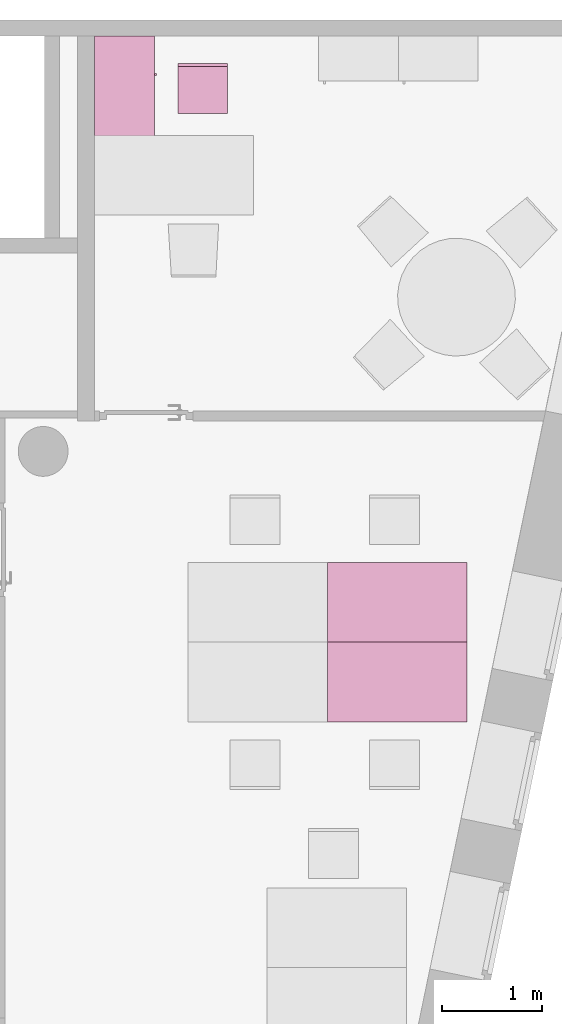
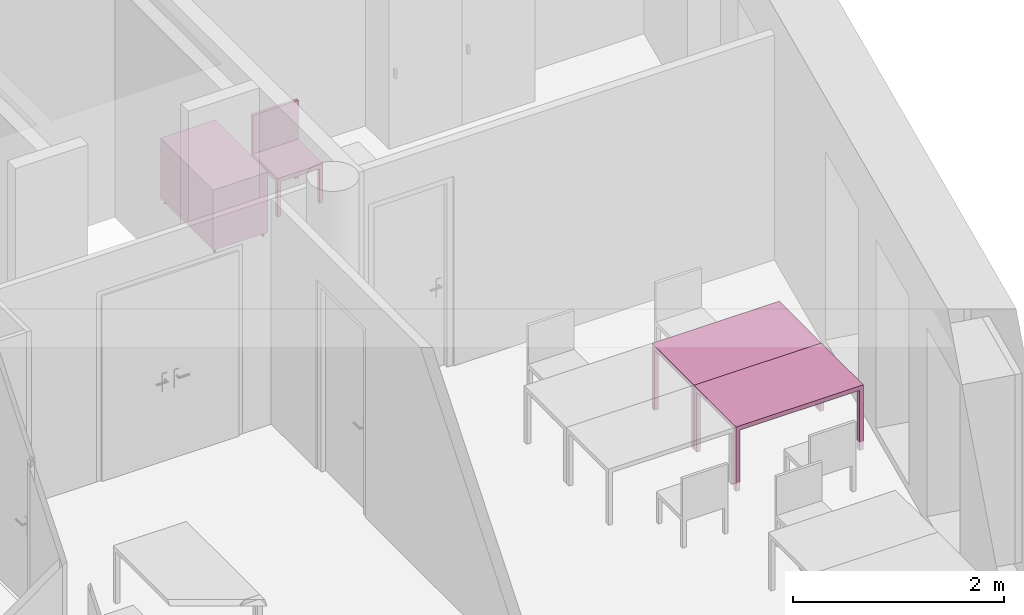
"""IFC4 building model written with IfcOpenShell, lengths in metres."""

import ifcopenshell
import ifcopenshell.guid

model = None  # the IFC model being written
_history = None  # IfcOwnerHistory: only IFC2X3 demands one
_inside = {}  # id of a spatial element -> (the spatial element, [elements in it])
_under = {}  # id of a project, library or spatial element -> (it, [spatial elements below it])
_declared = {}  # id of a project -> (the project, [libraries it declares])
_typed = {}  # id of a type object -> (the type object, [elements of that type])
_made_of = {}  # id of a material, layer set ... -> (it, [elements and type objects made of it])


def new_model(schema):
    """Start an empty IFC model of exactly this schema.

    Asked for "IFC4X3", IfcOpenShell would pick the latest addendum, in which some entities
    have other attributes; the version numbers below select the first issue.
    IFC2X3 requires an IfcOwnerHistory on every rooted entity: one is made here for all.
    """
    global model, _history
    if schema == "IFC4X3":
        model = ifcopenshell.file(schema_version=(4, 3, 0, 0))
    else:
        model = ifcopenshell.file(schema=schema)
    _inside.clear()
    _under.clear()
    _declared.clear()
    _typed.clear()
    _made_of.clear()
    _history = None
    if model.schema == "IFC2X3":
        org = make("IfcOrganization", Name="unknown")
        user = make(
            "IfcPersonAndOrganization",
            ThePerson=make("IfcPerson", FamilyName="unknown"),
            TheOrganization=org,
        )
        app = make(
            "IfcApplication",
            ApplicationDeveloper=org,
            Version="unknown",
            ApplicationFullName="unknown",
            ApplicationIdentifier="unknown",
        )
        _history = make(
            "IfcOwnerHistory",
            OwningUser=user,
            OwningApplication=app,
            ChangeAction="ADDED",
            CreationDate=0,
        )
    return model


def make(cls, **values):
    """One entity of the class cls with the attributes given. An attribute that is None is left unset."""
    return model.create_entity(
        cls, **{name: value for name, value in values.items() if value is not None}
    )


def entity(cls, *values):
    """Any entity or typed value of the class cls, its attributes in the order of the schema. None: left unset."""
    e = model.create_entity(cls)
    for i, value in enumerate(values):
        if value is not None:
            e[i] = value
    return e


def rooted(cls, **values):
    """An entity with a GlobalId (a new one), such as an element, a storey or a relation."""
    return make(cls, GlobalId=ifcopenshell.guid.new(), OwnerHistory=_history, **values)


def si_unit(unit_type, name, prefix=None):
    """IfcSIUnit, for example si_unit("LENGTHUNIT", "METRE", prefix="MILLI")."""
    return make("IfcSIUnit", UnitType=unit_type, Prefix=prefix, Name=name)


def converted_unit(unit_type, name, factor, base, dimensions=None, offset=None):
    """IfcConversionBasedUnit, such as the inch: factor (a typed value) times the base unit."""
    return make(
        "IfcConversionBasedUnit"
        if offset is None
        else "IfcConversionBasedUnitWithOffset",
        ConversionOffset=offset,
        Dimensions=None
        if dimensions is None
        else entity("IfcDimensionalExponents", *dimensions),
        UnitType=unit_type,
        Name=name,
        ConversionFactor=make(
            "IfcMeasureWithUnit", ValueComponent=factor, UnitComponent=base
        ),
    )


def derived_unit(unit_type, elements):
    """IfcDerivedUnit: a product of units, each with its exponent."""
    return make(
        "IfcDerivedUnit",
        Elements=[
            make("IfcDerivedUnitElement", Unit=unit, Exponent=power)
            for unit, power in elements
        ],
        UnitType=unit_type,
    )


def assignment(units):
    """IfcUnitAssignment: the units of a project."""
    return None if units is None else make("IfcUnitAssignment", Units=units)


def point(xyz):
    """IfcCartesianPoint."""
    return None if xyz is None else make("IfcCartesianPoint", Coordinates=xyz)


def direction(xyz):
    """IfcDirection."""
    return None if xyz is None else make("IfcDirection", DirectionRatios=xyz)


def frame(location, z_axis=None, x_axis=None):
    """IfcAxis2Placement3D, a coordinate frame: its origin and axes. An axis left out is left unset."""
    return make(
        "IfcAxis2Placement3D",
        Location=point(location),
        Axis=direction(z_axis),
        RefDirection=direction(x_axis),
    )


def origin():
    """The frame at (0, 0, 0) with its axes left unset."""
    return frame((0.0, 0.0, 0.0))


def place(relative_to, where):
    """IfcLocalPlacement: puts the frame where relative to a parent placement (None: the world)."""
    return make(
        "IfcLocalPlacement", PlacementRelTo=relative_to, RelativePlacement=where
    )


def context(
    kind, dimensions, precision=None, world=None, true_north=None, identifier=None
):
    """IfcGeometricRepresentationContext, for example the 3D "Model" context."""
    return make(
        "IfcGeometricRepresentationContext",
        ContextIdentifier=identifier,
        ContextType=kind,
        CoordinateSpaceDimension=dimensions,
        Precision=precision,
        WorldCoordinateSystem=world,
        TrueNorth=true_north,
    )


def subcontext(parent, identifier, kind, view, scale=None):
    """IfcGeometricRepresentationSubContext, for example "Body" below "Model"."""
    return make(
        "IfcGeometricRepresentationSubContext",
        ContextIdentifier=identifier,
        ContextType=kind,
        ParentContext=parent,
        TargetScale=scale,
        TargetView=view,
    )


def project(units=None, contexts=None):
    """IfcProject with its units and contexts."""
    return rooted(
        "IfcProject",
        Name="project",
        RepresentationContexts=contexts,
        UnitsInContext=assignment(units),
    )


def spatial(cls, under=None, at=None, **own):
    """A site, building, storey or space (cls), placed at a placement, below another one or the project."""
    s = rooted(cls, ObjectPlacement=at, **own)
    if under is not None:
        _under.setdefault(under.id(), (under, []))[1].append(s)
    return s


def faces_of(points, faces, orient=None, outer=None):
    """IfcFace entities. A face is a list of loops; a loop is a list of indices into points, from 0.

    orient and outer hold one flag for each loop. By default every Orientation is true, the
    first loop of a face is its IfcFaceOuterBound and the others are IfcFaceBound.
    """
    made = []
    for i, loops in enumerate(faces):
        bounds = []
        for j, loop in enumerate(loops):
            is_outer = j == 0 if outer is None else outer[i][j]
            bounds.append(
                make(
                    "IfcFaceOuterBound" if is_outer else "IfcFaceBound",
                    Bound=make("IfcPolyLoop", Polygon=[points[k] for k in loop]),
                    Orientation=True if orient is None else orient[i][j],
                )
            )
        made.append(make("IfcFace", Bounds=bounds))
    return made


def faceted_brep(points, faces, orient=None, outer=None, voids=None):
    """IfcFacetedBrep: a solid bounded by flat faces; with voids (closed shells), ...WithVoids."""
    shared = [point(p) for p in points]
    hull = make("IfcClosedShell", CfsFaces=faces_of(shared, faces, orient, outer))
    if voids is None:
        return make("IfcFacetedBrep", Outer=hull)
    return make(
        "IfcFacetedBrepWithVoids",
        Outer=hull,
        Voids=[
            make(cls, CfsFaces=faces_of(shared, fs, o, b)) for cls, fs, o, b in voids
        ],
    )


def shape(context_of_items, identifier, shape_type, items):
    """IfcShapeRepresentation: the items that make up one representation, for example the "Body"."""
    return make(
        "IfcShapeRepresentation",
        ContextOfItems=context_of_items,
        RepresentationIdentifier=identifier,
        RepresentationType=shape_type,
        Items=items,
    )


def made_of(thing, what):
    """Note that an element or type object is made of a material, layer set ...; save() writes the relation."""
    if what is not None:
        _made_of.setdefault(what.id(), (what, []))[1].append(thing)
    return thing


def element(
    cls,
    number,
    at=None,
    inside=None,
    cuts=None,
    type_object=None,
    material=None,
    context=None,
    identifier="Body",
    shape_type=None,
    held_by="IfcProductDefinitionShape",
    body=None,
    shapes=None,
    **own,
):
    """One element of the class cls, such as IfcWall. Its Tag is "e" and its number.

    at: its placement. inside: the storey or other place that contains it. cuts: it is an
    opening in that element (IfcRelVoidsElement). A single representation is given by context,
    identifier, shape_type and body (its items); several are given by shapes. held_by: the class
    of the entity that holds the representations. save() writes the other relations.
    """
    e = rooted(cls, Tag="e%d" % number, ObjectPlacement=at, **own)
    if body is not None:
        shapes = [shape(context, identifier, shape_type, body)]
    if shapes is not None:
        e.Representation = make(held_by, Representations=shapes)
    if inside is not None:
        _inside.setdefault(inside.id(), (inside, []))[1].append(e)
    if cuts is not None:
        rooted(
            "IfcRelVoidsElement", RelatingBuildingElement=cuts, RelatedOpeningElement=e
        )
    if type_object is not None:
        _typed.setdefault(type_object.id(), (type_object, []))[1].append(e)
    return made_of(e, material)


def aggregate(whole, parts):
    """IfcRelAggregates: a whole, such as a stair, and the parts it consists of."""
    return rooted("IfcRelAggregates", RelatingObject=whole, RelatedObjects=parts)


def save(model, path):
    """Write the relations noted so far, then the file.

    IfcRelAggregates (storeys below a building ...), IfcRelContainedInSpatialStructure (elements
    in a storey), IfcRelDefinesByType, IfcRelAssociatesMaterial and IfcRelDeclares: one each for
    every whole, place, type object, material and project.
    """
    for whole, parts in _under.values():
        aggregate(whole, parts)
    for where, things in _inside.values():
        rooted(
            "IfcRelContainedInSpatialStructure",
            RelatedElements=things,
            RelatingStructure=where,
        )
    for kind, things in _typed.values():
        rooted("IfcRelDefinesByType", RelatedObjects=things, RelatingType=kind)
    for what, things in _made_of.values():
        rooted("IfcRelAssociatesMaterial", RelatedObjects=things, RelatingMaterial=what)
    for by, libraries in _declared.values():
        rooted("IfcRelDeclares", RelatingContext=by, RelatedDefinitions=libraries)
    model.write(path)


model = new_model("IFC4")

# Units and contexts
model_context = context("Model", 3, precision=1e-05, world=origin())
body_context = subcontext(model_context, "Body", "Model", "MODEL_VIEW")
ifc_project = project(units=[si_unit("LENGTHUNIT", "METRE"), si_unit("AREAUNIT", "SQUARE_METRE"), si_unit("VOLUMEUNIT", "CUBIC_METRE"), si_unit("MASSUNIT", "GRAM", prefix="KILO"), converted_unit("PLANEANGLEUNIT", "DEGREE", entity("IfcPlaneAngleMeasure", 0.0174532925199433), si_unit("PLANEANGLEUNIT", "RADIAN"), dimensions=[0, 0, 0, 0, 0, 0, 0]), derived_unit("THERMALTRANSMITTANCEUNIT", [(si_unit("POWERUNIT", "WATT"), 1), (si_unit("THERMODYNAMICTEMPERATUREUNIT", "KELVIN"), -1), (si_unit("LENGTHUNIT", "METRE"), -2)]), derived_unit("VOLUMETRICFLOWRATEUNIT", [(si_unit("LENGTHUNIT", "METRE"), 3), (converted_unit("TIMEUNIT", "hour", entity("IfcTimeMeasure", 3600.0), si_unit("TIMEUNIT", "SECOND"), dimensions=[0, 0, 1, 0, 0, 0, 0]), -1), (si_unit("LENGTHUNIT", "METRE"), -1)])], contexts=[model_context])

# Building, storeys
building_placement = place(None, origin())
building = spatial("IfcBuilding", under=ifc_project, at=building_placement, Name="HABITATGE PLURIFAMILIAR", CompositionType="ELEMENT")
storey_1_placement = place(building_placement, frame((0.0, 0.0, 9.26)))
storey_1 = spatial("IfcBuildingStorey", under=building, at=storey_1_placement, Name="PLANTA SEGONA", CompositionType="ELEMENT", Elevation=9.26)
storey_2_placement = place(storey_1_placement, frame((0.0, 0.0, 6.25)))
storey_2 = spatial("IfcBuildingStorey", under=storey_1, at=storey_2_placement, Name="NOU", CompositionType="PARTIAL")

# Furniture
furniture_1_placement = place(storey_2_placement, frame((421.506984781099, 27.065193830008, -6.3499999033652)))
element("IfcFurniture", 1, at=furniture_1_placement, inside=storey_2, Name="Taula 100X60_P2", context=body_context, shape_type="Brep", body=[
    faceted_brep([(0.0, 0.0, 0.05), (0.0, 0.0, 0.07), (0.6, 0.0, 0.07), (0.6, 0.0, 0.05), (0.6, 1.00000000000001, 0.07), (0.6, 1.00000000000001, 0.05), (0.0, 1.00000000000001, 0.07), (0.0, 1.00000000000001, 0.05)], [[[0, 1, 2, 3]], [[3, 2, 4, 5]], [[5, 4, 6, 7]], [[7, 6, 1, 0]], [[0, 3, 5, 7]], [[1, 6, 4, 2]]], orient=[[False], [False], [False], [False], [False], [False]]),
    faceted_brep([(0.58, 0.0, 0.35), (0.58, 1.00000000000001, 0.35), (0.0, 1.0, 0.35), (0.0, 0.0, 0.35), (0.0, 0.0, 0.37), (0.0, 1.0, 0.37), (0.58, 1.00000000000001, 0.37), (0.58, 0.0, 0.37)], [[[0, 1, 2, 3]], [[4, 5, 6, 7]], [[3, 4, 7, 0]], [[2, 5, 4, 3]], [[1, 6, 5, 2]], [[0, 7, 6, 1]]], orient=[[False], [False], [False], [False], [False], [False]]),
    faceted_brep([(0.58, 0.510000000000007, 0.75), (0.6, 0.510000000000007, 0.75), (0.6, 0.510000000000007, 0.05), (0.58, 0.510000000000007, 0.05), (0.6, 1.00000000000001, 0.05), (0.58, 1.00000000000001, 0.05), (0.6, 1.00000000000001, 0.75), (0.58, 1.00000000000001, 0.75)], [[[0, 1, 2, 3]], [[3, 2, 4, 5]], [[5, 4, 6, 7]], [[7, 6, 1, 0]], [[0, 3, 5, 7]], [[1, 6, 4, 2]]], orient=[[False], [False], [False], [False], [False], [False]]),
    faceted_brep([(0.0, 0.0200000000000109, 0.75), (0.0, 0.0, 0.75), (0.0, 0.0, 0.0499999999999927), (0.0, 0.0200000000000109, 0.0499999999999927), (0.6, 0.0, 0.05), (0.6, 0.0200000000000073, 0.05), (0.6, 0.0, 0.75), (0.6, 0.0200000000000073, 0.75)], [[[0, 1, 2, 3]], [[3, 2, 4, 5]], [[5, 4, 6, 7]], [[7, 6, 1, 0]], [[0, 3, 5, 7]], [[1, 6, 4, 2]]], orient=[[False], [False], [False], [False], [False], [False]]),
    faceted_brep([(0.0, 0.530000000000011, 0.75), (0.0, 0.510000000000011, 0.75), (0.0, 0.510000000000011, 0.0499999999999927), (0.0, 0.530000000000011, 0.0499999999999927), (0.6, 0.510000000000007, 0.05), (0.6, 0.530000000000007, 0.05), (0.6, 0.510000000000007, 0.75), (0.6, 0.530000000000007, 0.75)], [[[0, 1, 2, 3]], [[3, 2, 4, 5]], [[5, 4, 6, 7]], [[7, 6, 1, 0]], [[0, 3, 5, 7]], [[1, 6, 4, 2]]], orient=[[False], [False], [False], [False], [False], [False]]),
    faceted_brep([(0.0, 0.530000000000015, 0.750000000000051), (0.0, 0.510000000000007, 0.750000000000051), (0.0, 0.510000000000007, 0.0499999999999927), (0.0, 0.530000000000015, 0.0499999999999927), (0.579999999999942, 0.510000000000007, 0.0499999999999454), (0.579999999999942, 0.530000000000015, 0.0499999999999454), (0.58, 0.510000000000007, 0.750000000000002), (0.58, 0.530000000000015, 0.750000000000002)], [[[0, 1, 2, 3]], [[3, 2, 4, 5]], [[5, 4, 6, 7]], [[7, 6, 1, 0]], [[0, 3, 5, 7]], [[1, 6, 4, 2]]], orient=[[False], [False], [False], [False], [False], [False]]),
    faceted_brep([(0.0, 1.00000000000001, 0.75), (0.0, 0.980000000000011, 0.75), (0.0, 0.980000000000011, 0.0499999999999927), (0.0, 1.00000000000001, 0.0499999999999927), (0.6, 0.980000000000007, 0.05), (0.6, 1.00000000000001, 0.05), (0.6, 0.980000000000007, 0.75), (0.6, 1.00000000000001, 0.75)], [[[0, 1, 2, 3]], [[3, 2, 4, 5]], [[5, 4, 6, 7]], [[7, 6, 1, 0]], [[0, 3, 5, 7]], [[1, 6, 4, 2]]], orient=[[False], [False], [False], [False], [False], [False]]),
    faceted_brep([(0.0, 0.0, 0.73), (0.0, 0.0, 0.75), (0.6, 0.0, 0.75), (0.6, 0.0, 0.73), (0.6, 1.00000000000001, 0.75), (0.6, 1.00000000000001, 0.73), (0.0, 1.00000000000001, 0.75), (0.0, 1.00000000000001, 0.73)], [[[0, 1, 2, 3]], [[3, 2, 4, 5]], [[5, 4, 6, 7]], [[7, 6, 1, 0]], [[0, 3, 5, 7]], [[1, 6, 4, 2]]], orient=[[False], [False], [False], [False], [False], [False]]),
    faceted_brep([(0.0, 0.0200000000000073, 0.75), (0.02, 0.0200000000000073, 0.75), (0.02, 0.0200000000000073, 0.05), (0.0, 0.0200000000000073, 0.05), (0.02, 1.00000000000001, 0.05), (0.0, 1.00000000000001, 0.05), (0.02, 1.00000000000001, 0.75), (0.0, 1.00000000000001, 0.75)], [[[0, 1, 2, 3]], [[3, 2, 4, 5]], [[5, 4, 6, 7]], [[7, 6, 1, 0]], [[0, 3, 5, 7]], [[1, 6, 4, 2]]], orient=[[False], [False], [False], [False], [False], [False]]),
    faceted_brep([(0.6, 0.625579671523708, 0.35), (0.6, 0.605579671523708, 0.35), (0.62, 0.605579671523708, 0.35), (0.62, 0.625579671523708, 0.35), (0.6, 0.605579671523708, 0.45), (0.6, 0.625579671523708, 0.45), (0.62, 0.625579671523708, 0.45), (0.62, 0.605579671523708, 0.45)], [[[0, 1, 2, 3]], [[4, 5, 6, 7]], [[1, 0, 5, 4]], [[2, 1, 4, 7]], [[3, 2, 7, 6]], [[0, 3, 6, 5]]], orient=[[False], [False], [False], [False], [False], [False]]),
    faceted_brep([(0.0361788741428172, 0.049936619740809, 0.0), (0.0335849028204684, 0.0497096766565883, 0.0), (0.0310697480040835, 0.0490357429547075, 0.0), (0.0287098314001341, 0.0479352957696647, 0.0), (0.02657685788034, 0.0464417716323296, 0.0), (0.024735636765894, 0.0446005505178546, 0.0), (0.0232421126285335, 0.0424675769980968, 0.0), (0.022141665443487, 0.0401076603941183, 0.0), (0.0214677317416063, 0.0375925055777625, 0.0), (0.0212407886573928, 0.0349985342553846, 0.0), (0.0214677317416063, 0.0324045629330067, 0.0), (0.022141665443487, 0.0298894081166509, 0.0), (0.0232421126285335, 0.0275294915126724, 0.0), (0.024735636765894, 0.0253965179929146, 0.0), (0.02657685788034, 0.0235552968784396, 0.0), (0.0287098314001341, 0.0220617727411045, 0.0), (0.0310697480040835, 0.0209613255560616, 0.0), (0.0335849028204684, 0.0202873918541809, 0.0), (0.0361788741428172, 0.0200604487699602, 0.0), (0.038772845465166, 0.0202873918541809, 0.0), (0.0412880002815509, 0.0209613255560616, 0.0), (0.0436479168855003, 0.0220617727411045, 0.0), (0.0457808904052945, 0.0235552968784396, 0.0), (0.0476221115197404, 0.0253965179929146, 0.0), (0.0491156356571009, 0.0275294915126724, 0.0), (0.0502160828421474, 0.0298894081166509, 0.0), (0.0508900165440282, 0.0324045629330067, 0.0), (0.0511169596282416, 0.0349985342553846, 0.0), (0.0508900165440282, 0.0375925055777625, 0.0), (0.0502160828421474, 0.0401076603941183, 0.0), (0.0491156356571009, 0.0424675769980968, 0.0), (0.0476221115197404, 0.0446005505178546, 0.0), (0.0457808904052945, 0.0464417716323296, 0.0), (0.0436479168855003, 0.0479352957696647, 0.0), (0.0412880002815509, 0.0490357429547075, 0.0), (0.038772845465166, 0.0497096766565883, 0.0), (0.0361788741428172, 0.049936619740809, 0.05), (0.038772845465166, 0.0497096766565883, 0.05), (0.0412880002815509, 0.0490357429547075, 0.05), (0.0436479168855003, 0.0479352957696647, 0.05), (0.0457808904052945, 0.0464417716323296, 0.05), (0.0476221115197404, 0.0446005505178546, 0.05), (0.0491156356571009, 0.0424675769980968, 0.05), (0.0502160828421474, 0.0401076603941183, 0.05), (0.0508900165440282, 0.0375925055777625, 0.05), (0.0511169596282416, 0.0349985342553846, 0.05), (0.0508900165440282, 0.0324045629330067, 0.05), (0.0502160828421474, 0.0298894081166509, 0.05), (0.0491156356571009, 0.0275294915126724, 0.05), (0.0476221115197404, 0.0253965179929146, 0.05), (0.0457808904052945, 0.0235552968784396, 0.05), (0.0436479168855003, 0.0220617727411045, 0.05), (0.0412880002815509, 0.0209613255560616, 0.05), (0.038772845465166, 0.0202873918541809, 0.05), (0.0361788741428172, 0.0200604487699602, 0.05), (0.0335849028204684, 0.0202873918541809, 0.05), (0.0310697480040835, 0.0209613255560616, 0.05), (0.0287098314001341, 0.0220617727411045, 0.05), (0.02657685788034, 0.0235552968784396, 0.05), (0.024735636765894, 0.0253965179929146, 0.05), (0.0232421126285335, 0.0275294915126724, 0.05), (0.022141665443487, 0.0298894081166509, 0.05), (0.0214677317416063, 0.0324045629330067, 0.05), (0.0212407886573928, 0.0349985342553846, 0.05), (0.0214677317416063, 0.0375925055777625, 0.05), (0.022141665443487, 0.0401076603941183, 0.05), (0.0232421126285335, 0.0424675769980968, 0.05), (0.024735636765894, 0.0446005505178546, 0.05), (0.02657685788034, 0.0464417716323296, 0.05), (0.0287098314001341, 0.0479352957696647, 0.05), (0.0310697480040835, 0.0490357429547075, 0.05), (0.0335849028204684, 0.0497096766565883, 0.05)], [[[0, 1, 2, 3, 4, 5, 6, 7, 8, 9, 10, 11, 12, 13, 14, 15, 16, 17, 18, 19, 20, 21, 22, 23, 24, 25, 26, 27, 28, 29, 30, 31, 32, 33, 34, 35]], [[36, 37, 38, 39, 40, 41, 42, 43, 44, 45, 46, 47, 48, 49, 50, 51, 52, 53, 54, 55, 56, 57, 58, 59, 60, 61, 62, 63, 64, 65, 66, 67, 68, 69, 70, 71]], [[35, 37, 36, 0]], [[34, 38, 37, 35]], [[33, 39, 38, 34]], [[32, 40, 39, 33]], [[31, 41, 40, 32]], [[30, 42, 41, 31]], [[29, 43, 42, 30]], [[28, 44, 43, 29]], [[27, 45, 44, 28]], [[26, 46, 45, 27]], [[25, 47, 46, 26]], [[24, 48, 47, 25]], [[23, 49, 48, 24]], [[22, 50, 49, 23]], [[21, 51, 50, 22]], [[20, 52, 51, 21]], [[19, 53, 52, 20]], [[18, 54, 53, 19]], [[17, 55, 54, 18]], [[16, 56, 55, 17]], [[15, 57, 56, 16]], [[14, 58, 57, 15]], [[13, 59, 58, 14]], [[12, 60, 59, 13]], [[11, 61, 60, 12]], [[10, 62, 61, 11]], [[9, 63, 62, 10]], [[8, 64, 63, 9]], [[7, 65, 64, 8]], [[6, 66, 65, 7]], [[5, 67, 66, 6]], [[4, 68, 67, 5]], [[3, 69, 68, 4]], [[2, 70, 69, 3]], [[1, 71, 70, 2]], [[0, 36, 71, 1]]], orient=[[False], [False], [False], [False], [False], [False], [False], [False], [False], [False], [False], [False], [False], [False], [False], [False], [False], [False], [False], [False], [False], [False], [False], [False], [False], [False], [False], [False], [False], [False], [False], [False], [False], [False], [False], [False], [False], [False]]),
    faceted_brep([(0.566178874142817, 0.0499366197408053, 0.0), (0.563584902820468, 0.0497096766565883, 0.0), (0.561069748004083, 0.0490357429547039, 0.0), (0.558709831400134, 0.047935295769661, 0.0), (0.55657685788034, 0.0464417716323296, 0.0), (0.554735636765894, 0.0446005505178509, 0.0), (0.553242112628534, 0.0424675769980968, 0.0), (0.552141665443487, 0.0401076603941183, 0.0), (0.551467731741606, 0.0375925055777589, 0.0), (0.551240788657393, 0.0349985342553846, 0.0), (0.551467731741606, 0.0324045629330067, 0.0), (0.552141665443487, 0.0298894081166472, 0.0), (0.553242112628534, 0.0275294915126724, 0.0), (0.554735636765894, 0.0253965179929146, 0.0), (0.55657685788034, 0.0235552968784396, 0.0), (0.558709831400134, 0.0220617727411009, 0.0), (0.561069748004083, 0.0209613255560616, 0.0), (0.563584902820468, 0.0202873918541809, 0.0), (0.566178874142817, 0.0200604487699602, 0.0), (0.568772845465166, 0.0202873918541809, 0.0), (0.571288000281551, 0.0209613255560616, 0.0), (0.5736479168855, 0.0220617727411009, 0.0), (0.575780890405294, 0.0235552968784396, 0.0), (0.57762211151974, 0.0253965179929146, 0.0), (0.579115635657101, 0.0275294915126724, 0.0), (0.580216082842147, 0.0298894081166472, 0.0), (0.580890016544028, 0.0324045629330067, 0.0), (0.581116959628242, 0.0349985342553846, 0.0), (0.580890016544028, 0.0375925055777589, 0.0), (0.580216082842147, 0.0401076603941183, 0.0), (0.579115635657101, 0.0424675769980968, 0.0), (0.57762211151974, 0.0446005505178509, 0.0), (0.575780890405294, 0.0464417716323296, 0.0), (0.5736479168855, 0.047935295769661, 0.0), (0.571288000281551, 0.0490357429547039, 0.0), (0.568772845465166, 0.0497096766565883, 0.0), (0.566178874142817, 0.0499366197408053, 0.05), (0.568772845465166, 0.0497096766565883, 0.05), (0.571288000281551, 0.0490357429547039, 0.05), (0.5736479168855, 0.047935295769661, 0.05), (0.575780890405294, 0.0464417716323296, 0.05), (0.57762211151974, 0.0446005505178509, 0.05), (0.579115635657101, 0.0424675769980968, 0.05), (0.580216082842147, 0.0401076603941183, 0.05), (0.580890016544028, 0.0375925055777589, 0.05), (0.581116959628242, 0.0349985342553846, 0.05), (0.580890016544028, 0.0324045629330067, 0.05), (0.580216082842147, 0.0298894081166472, 0.05), (0.579115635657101, 0.0275294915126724, 0.05), (0.57762211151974, 0.0253965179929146, 0.05), (0.575780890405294, 0.0235552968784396, 0.05), (0.5736479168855, 0.0220617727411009, 0.05), (0.571288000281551, 0.0209613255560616, 0.05), (0.568772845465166, 0.0202873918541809, 0.05), (0.566178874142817, 0.0200604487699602, 0.05), (0.563584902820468, 0.0202873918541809, 0.05), (0.561069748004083, 0.0209613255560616, 0.05), (0.558709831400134, 0.0220617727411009, 0.05), (0.55657685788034, 0.0235552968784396, 0.05), (0.554735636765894, 0.0253965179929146, 0.05), (0.553242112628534, 0.0275294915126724, 0.05), (0.552141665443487, 0.0298894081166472, 0.05), (0.551467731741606, 0.0324045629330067, 0.05), (0.551240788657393, 0.0349985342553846, 0.05), (0.551467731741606, 0.0375925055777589, 0.05), (0.552141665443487, 0.0401076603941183, 0.05), (0.553242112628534, 0.0424675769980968, 0.05), (0.554735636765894, 0.0446005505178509, 0.05), (0.55657685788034, 0.0464417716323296, 0.05), (0.558709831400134, 0.047935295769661, 0.05), (0.561069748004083, 0.0490357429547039, 0.05), (0.563584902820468, 0.0497096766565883, 0.05)], [[[0, 1, 2, 3, 4, 5, 6, 7, 8, 9, 10, 11, 12, 13, 14, 15, 16, 17, 18, 19, 20, 21, 22, 23, 24, 25, 26, 27, 28, 29, 30, 31, 32, 33, 34, 35]], [[36, 37, 38, 39, 40, 41, 42, 43, 44, 45, 46, 47, 48, 49, 50, 51, 52, 53, 54, 55, 56, 57, 58, 59, 60, 61, 62, 63, 64, 65, 66, 67, 68, 69, 70, 71]], [[35, 37, 36, 0]], [[34, 38, 37, 35]], [[33, 39, 38, 34]], [[32, 40, 39, 33]], [[31, 41, 40, 32]], [[30, 42, 41, 31]], [[29, 43, 42, 30]], [[28, 44, 43, 29]], [[27, 45, 44, 28]], [[26, 46, 45, 27]], [[25, 47, 46, 26]], [[24, 48, 47, 25]], [[23, 49, 48, 24]], [[22, 50, 49, 23]], [[21, 51, 50, 22]], [[20, 52, 51, 21]], [[19, 53, 52, 20]], [[18, 54, 53, 19]], [[17, 55, 54, 18]], [[16, 56, 55, 17]], [[15, 57, 56, 16]], [[14, 58, 57, 15]], [[13, 59, 58, 14]], [[12, 60, 59, 13]], [[11, 61, 60, 12]], [[10, 62, 61, 11]], [[9, 63, 62, 10]], [[8, 64, 63, 9]], [[7, 65, 64, 8]], [[6, 66, 65, 7]], [[5, 67, 66, 6]], [[4, 68, 67, 5]], [[3, 69, 68, 4]], [[2, 70, 69, 3]], [[1, 71, 70, 2]], [[0, 36, 71, 1]]], orient=[[False], [False], [False], [False], [False], [False], [False], [False], [False], [False], [False], [False], [False], [False], [False], [False], [False], [False], [False], [False], [False], [False], [False], [False], [False], [False], [False], [False], [False], [False], [False], [False], [False], [False], [False], [False], [False], [False]]),
    faceted_brep([(0.564999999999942, 0.979982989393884, 0.0), (0.562406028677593, 0.979756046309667, 0.0), (0.559890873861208, 0.979082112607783, 0.0), (0.557530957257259, 0.97798166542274, 0.0), (0.555397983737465, 0.976488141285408, 0.0), (0.553556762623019, 0.97464692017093, 0.0), (0.552063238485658, 0.972513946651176, 0.0), (0.550962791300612, 0.970154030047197, 0.0), (0.550288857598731, 0.967638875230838, 0.0), (0.550061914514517, 0.965044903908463, 0.0), (0.550288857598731, 0.962450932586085, 0.0), (0.550962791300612, 0.959935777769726, 0.0), (0.552063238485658, 0.957575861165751, 0.0), (0.553556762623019, 0.955442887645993, 0.0), (0.555397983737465, 0.953601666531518, 0.0), (0.557530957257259, 0.95210814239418, 0.0), (0.559890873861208, 0.95100769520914, 0.0), (0.562406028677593, 0.95033376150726, 0.0), (0.564999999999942, 0.950106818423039, 0.0), (0.567593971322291, 0.95033376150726, 0.0), (0.570109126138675, 0.95100769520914, 0.0), (0.572469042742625, 0.95210814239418, 0.0), (0.574602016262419, 0.953601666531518, 0.0), (0.576443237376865, 0.955442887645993, 0.0), (0.577936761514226, 0.957575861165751, 0.0), (0.579037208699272, 0.959935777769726, 0.0), (0.579711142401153, 0.962450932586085, 0.0), (0.579938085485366, 0.965044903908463, 0.0), (0.579711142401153, 0.967638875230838, 0.0), (0.579037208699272, 0.970154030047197, 0.0), (0.577936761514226, 0.972513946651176, 0.0), (0.576443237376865, 0.97464692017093, 0.0), (0.574602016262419, 0.976488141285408, 0.0), (0.572469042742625, 0.97798166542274, 0.0), (0.570109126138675, 0.979082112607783, 0.0), (0.567593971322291, 0.979756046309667, 0.0), (0.564999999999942, 0.979982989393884, 0.05), (0.567593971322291, 0.979756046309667, 0.05), (0.570109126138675, 0.979082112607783, 0.05), (0.572469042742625, 0.97798166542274, 0.05), (0.574602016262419, 0.976488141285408, 0.05), (0.576443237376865, 0.97464692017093, 0.05), (0.577936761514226, 0.972513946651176, 0.05), (0.579037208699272, 0.970154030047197, 0.05), (0.579711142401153, 0.967638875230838, 0.05), (0.579938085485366, 0.965044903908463, 0.05), (0.579711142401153, 0.962450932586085, 0.05), (0.579037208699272, 0.959935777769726, 0.05), (0.577936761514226, 0.957575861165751, 0.05), (0.576443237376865, 0.955442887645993, 0.05), (0.574602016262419, 0.953601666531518, 0.05), (0.572469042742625, 0.95210814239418, 0.05), (0.570109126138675, 0.95100769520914, 0.05), (0.567593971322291, 0.95033376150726, 0.05), (0.564999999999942, 0.950106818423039, 0.05), (0.562406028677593, 0.95033376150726, 0.05), (0.559890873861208, 0.95100769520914, 0.05), (0.557530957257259, 0.95210814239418, 0.05), (0.555397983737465, 0.953601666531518, 0.05), (0.553556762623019, 0.955442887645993, 0.05), (0.552063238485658, 0.957575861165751, 0.05), (0.550962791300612, 0.959935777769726, 0.05), (0.550288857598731, 0.962450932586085, 0.05), (0.550061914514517, 0.965044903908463, 0.05), (0.550288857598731, 0.967638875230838, 0.05), (0.550962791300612, 0.970154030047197, 0.05), (0.552063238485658, 0.972513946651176, 0.05), (0.553556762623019, 0.97464692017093, 0.05), (0.555397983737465, 0.976488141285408, 0.05), (0.557530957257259, 0.97798166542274, 0.05), (0.559890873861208, 0.979082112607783, 0.05), (0.562406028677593, 0.979756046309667, 0.05)], [[[0, 1, 2, 3, 4, 5, 6, 7, 8, 9, 10, 11, 12, 13, 14, 15, 16, 17, 18, 19, 20, 21, 22, 23, 24, 25, 26, 27, 28, 29, 30, 31, 32, 33, 34, 35]], [[36, 37, 38, 39, 40, 41, 42, 43, 44, 45, 46, 47, 48, 49, 50, 51, 52, 53, 54, 55, 56, 57, 58, 59, 60, 61, 62, 63, 64, 65, 66, 67, 68, 69, 70, 71]], [[35, 37, 36, 0]], [[34, 38, 37, 35]], [[33, 39, 38, 34]], [[32, 40, 39, 33]], [[31, 41, 40, 32]], [[30, 42, 41, 31]], [[29, 43, 42, 30]], [[28, 44, 43, 29]], [[27, 45, 44, 28]], [[26, 46, 45, 27]], [[25, 47, 46, 26]], [[24, 48, 47, 25]], [[23, 49, 48, 24]], [[22, 50, 49, 23]], [[21, 51, 50, 22]], [[20, 52, 51, 21]], [[19, 53, 52, 20]], [[18, 54, 53, 19]], [[17, 55, 54, 18]], [[16, 56, 55, 17]], [[15, 57, 56, 16]], [[14, 58, 57, 15]], [[13, 59, 58, 14]], [[12, 60, 59, 13]], [[11, 61, 60, 12]], [[10, 62, 61, 11]], [[9, 63, 62, 10]], [[8, 64, 63, 9]], [[7, 65, 64, 8]], [[6, 66, 65, 7]], [[5, 67, 66, 6]], [[4, 68, 67, 5]], [[3, 69, 68, 4]], [[2, 70, 69, 3]], [[1, 71, 70, 2]], [[0, 36, 71, 1]]], orient=[[False], [False], [False], [False], [False], [False], [False], [False], [False], [False], [False], [False], [False], [False], [False], [False], [False], [False], [False], [False], [False], [False], [False], [False], [False], [False], [False], [False], [False], [False], [False], [False], [False], [False], [False], [False], [False], [False]]),
    faceted_brep([(0.0349662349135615, 0.979647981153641, 0.0), (0.0323722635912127, 0.97942103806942, 0.0), (0.0298571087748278, 0.97874710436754, 0.0), (0.0274971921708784, 0.977646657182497, 0.0), (0.0253642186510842, 0.976153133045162, 0.0), (0.0235229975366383, 0.974311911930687, 0.0), (0.0220294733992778, 0.972178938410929, 0.0), (0.0209290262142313, 0.96981902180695, 0.0), (0.0202550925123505, 0.967303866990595, 0.0), (0.0200281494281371, 0.964709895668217, 0.0), (0.0202550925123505, 0.962115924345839, 0.0), (0.0209290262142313, 0.959600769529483, 0.0), (0.0220294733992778, 0.957240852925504, 0.0), (0.0235229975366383, 0.955107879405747, 0.0), (0.0253642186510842, 0.953266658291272, 0.0), (0.0274971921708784, 0.951773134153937, 0.0), (0.0298571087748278, 0.950672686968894, 0.0), (0.0323722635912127, 0.949998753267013, 0.0), (0.0349662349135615, 0.949771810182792, 0.0), (0.0375602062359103, 0.949998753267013, 0.0), (0.0400753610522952, 0.950672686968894, 0.0), (0.0424352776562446, 0.951773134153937, 0.0), (0.0445682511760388, 0.953266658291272, 0.0), (0.0464094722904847, 0.955107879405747, 0.0), (0.0479029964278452, 0.957240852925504, 0.0), (0.0490034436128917, 0.959600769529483, 0.0), (0.0496773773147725, 0.962115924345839, 0.0), (0.0499043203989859, 0.964709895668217, 0.0), (0.0496773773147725, 0.967303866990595, 0.0), (0.0490034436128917, 0.96981902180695, 0.0), (0.0479029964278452, 0.972178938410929, 0.0), (0.0464094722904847, 0.974311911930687, 0.0), (0.0445682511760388, 0.976153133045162, 0.0), (0.0424352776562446, 0.977646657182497, 0.0), (0.0400753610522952, 0.97874710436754, 0.0), (0.0375602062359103, 0.97942103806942, 0.0), (0.0349662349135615, 0.979647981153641, 0.05), (0.0375602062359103, 0.97942103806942, 0.05), (0.0400753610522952, 0.97874710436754, 0.05), (0.0424352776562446, 0.977646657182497, 0.05), (0.0445682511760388, 0.976153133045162, 0.05), (0.0464094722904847, 0.974311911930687, 0.05), (0.0479029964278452, 0.972178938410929, 0.05), (0.0490034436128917, 0.96981902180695, 0.05), (0.0496773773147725, 0.967303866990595, 0.05), (0.0499043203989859, 0.964709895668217, 0.05), (0.0496773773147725, 0.962115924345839, 0.05), (0.0490034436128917, 0.959600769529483, 0.05), (0.0479029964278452, 0.957240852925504, 0.05), (0.0464094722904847, 0.955107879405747, 0.05), (0.0445682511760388, 0.953266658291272, 0.05), (0.0424352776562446, 0.951773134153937, 0.05), (0.0400753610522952, 0.950672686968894, 0.05), (0.0375602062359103, 0.949998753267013, 0.05), (0.0349662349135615, 0.949771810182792, 0.05), (0.0323722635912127, 0.949998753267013, 0.05), (0.0298571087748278, 0.950672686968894, 0.05), (0.0274971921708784, 0.951773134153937, 0.05), (0.0253642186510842, 0.953266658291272, 0.05), (0.0235229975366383, 0.955107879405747, 0.05), (0.0220294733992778, 0.957240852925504, 0.05), (0.0209290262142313, 0.959600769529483, 0.05), (0.0202550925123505, 0.962115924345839, 0.05), (0.0200281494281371, 0.964709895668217, 0.05), (0.0202550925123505, 0.967303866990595, 0.05), (0.0209290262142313, 0.96981902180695, 0.05), (0.0220294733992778, 0.972178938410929, 0.05), (0.0235229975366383, 0.974311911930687, 0.05), (0.0253642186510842, 0.976153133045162, 0.05), (0.0274971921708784, 0.977646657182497, 0.05), (0.0298571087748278, 0.97874710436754, 0.05), (0.0323722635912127, 0.97942103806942, 0.05)], [[[0, 1, 2, 3, 4, 5, 6, 7, 8, 9, 10, 11, 12, 13, 14, 15, 16, 17, 18, 19, 20, 21, 22, 23, 24, 25, 26, 27, 28, 29, 30, 31, 32, 33, 34, 35]], [[36, 37, 38, 39, 40, 41, 42, 43, 44, 45, 46, 47, 48, 49, 50, 51, 52, 53, 54, 55, 56, 57, 58, 59, 60, 61, 62, 63, 64, 65, 66, 67, 68, 69, 70, 71]], [[35, 37, 36, 0]], [[34, 38, 37, 35]], [[33, 39, 38, 34]], [[32, 40, 39, 33]], [[31, 41, 40, 32]], [[30, 42, 41, 31]], [[29, 43, 42, 30]], [[28, 44, 43, 29]], [[27, 45, 44, 28]], [[26, 46, 45, 27]], [[25, 47, 46, 26]], [[24, 48, 47, 25]], [[23, 49, 48, 24]], [[22, 50, 49, 23]], [[21, 51, 50, 22]], [[20, 52, 51, 21]], [[19, 53, 52, 20]], [[18, 54, 53, 19]], [[17, 55, 54, 18]], [[16, 56, 55, 17]], [[15, 57, 56, 16]], [[14, 58, 57, 15]], [[13, 59, 58, 14]], [[12, 60, 59, 13]], [[11, 61, 60, 12]], [[10, 62, 61, 11]], [[9, 63, 62, 10]], [[8, 64, 63, 9]], [[7, 65, 64, 8]], [[6, 66, 65, 7]], [[5, 67, 66, 6]], [[4, 68, 67, 5]], [[3, 69, 68, 4]], [[2, 70, 69, 3]], [[1, 71, 70, 2]], [[0, 36, 71, 1]]], orient=[[False], [False], [False], [False], [False], [False], [False], [False], [False], [False], [False], [False], [False], [False], [False], [False], [False], [False], [False], [False], [False], [False], [False], [False], [False], [False], [False], [False], [False], [False], [False], [False], [False], [False], [False], [False], [False], [False]]),
])
furniture_2_placement = place(storey_2_placement, frame((422.342684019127, 27.2912573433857, -6.34632642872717)))
element("IfcFurniture", 2, at=furniture_2_placement, inside=storey_2, Name="Cadira d'Oficina_P2", context=body_context, shape_type="Brep", body=[
    faceted_brep([(0.5, 0.0, 0.4), (0.5, 0.5, 0.4), (0.0, 0.5, 0.4), (0.0, 0.0, 0.4), (0.5, 0.5, 0.45), (0.5, 0.0, 0.45), (0.0, 0.0, 0.45), (0.0, 0.5, 0.45)], [[[0, 1, 2, 3]], [[4, 5, 6, 7]], [[1, 0, 5, 4]], [[2, 1, 4, 7]], [[3, 2, 7, 6]], [[0, 3, 6, 5]]], orient=[[False], [False], [False], [False], [False], [False]]),
    faceted_brep([(0.0, 0.46, 0.0), (0.04, 0.46, 0.0), (0.04, 0.5, 0.0), (0.0, 0.5, 0.0), (0.04, 0.46, 0.4), (0.0, 0.46, 0.4), (0.0, 0.5, 0.4), (0.04, 0.5, 0.4)], [[[0, 1, 2, 3]], [[4, 5, 6, 7]], [[1, 0, 5, 4]], [[2, 1, 4, 7]], [[3, 2, 7, 6]], [[0, 3, 6, 5]]], orient=[[False], [False], [False], [False], [False], [False]]),
    faceted_brep([(0.0, 0.0, 0.0), (0.04, 0.0, 0.0), (0.04, 0.04, 0.0), (0.0, 0.04, 0.0), (0.04, 0.0, 0.4), (0.0, 0.0, 0.4), (0.0, 0.04, 0.4), (0.04, 0.04, 0.4)], [[[0, 1, 2, 3]], [[4, 5, 6, 7]], [[1, 0, 5, 4]], [[2, 1, 4, 7]], [[3, 2, 7, 6]], [[0, 3, 6, 5]]], orient=[[False], [False], [False], [False], [False], [False]]),
    faceted_brep([(0.46, 0.46, 0.0), (0.5, 0.46, 0.0), (0.5, 0.5, 0.0), (0.46, 0.5, 0.0), (0.5, 0.46, 0.4), (0.46, 0.46, 0.4), (0.46, 0.5, 0.4), (0.5, 0.5, 0.4)], [[[0, 1, 2, 3]], [[4, 5, 6, 7]], [[1, 0, 5, 4]], [[2, 1, 4, 7]], [[3, 2, 7, 6]], [[0, 3, 6, 5]]], orient=[[False], [False], [False], [False], [False], [False]]),
    faceted_brep([(0.46, 0.0, 0.0), (0.5, 0.0, 0.0), (0.5, 0.04, 0.0), (0.46, 0.04, 0.0), (0.5, 0.0, 0.4), (0.46, 0.0, 0.4), (0.46, 0.04, 0.4), (0.5, 0.04, 0.4)], [[[0, 1, 2, 3]], [[4, 5, 6, 7]], [[1, 0, 5, 4]], [[2, 1, 4, 7]], [[3, 2, 7, 6]], [[0, 3, 6, 5]]], orient=[[False], [False], [False], [False], [False], [False]]),
    faceted_brep([(0.0, 0.47, 0.45), (0.5, 0.47, 0.45), (0.5, 0.5, 0.45), (0.0, 0.5, 0.45), (0.5, 0.47, 0.9), (0.0, 0.47, 0.9), (0.0, 0.5, 0.9), (0.5, 0.5, 0.9)], [[[0, 1, 2, 3]], [[4, 5, 6, 7]], [[1, 0, 5, 4]], [[2, 1, 4, 7]], [[3, 2, 7, 6]], [[0, 3, 6, 5]]], orient=[[False], [False], [False], [False], [False], [False]]),
])
furniture_3_placement = place(storey_2_placement, frame((423.846738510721, 21.184330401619, -6.3499999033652)))
element("IfcFurniture", 3, at=furniture_3_placement, inside=storey_2, Name="Taula 140X80_P2", context=body_context, shape_type="Brep", body=[
    faceted_brep([(0.04375, 0.750069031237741, 0.0), (0.04375, 0.800069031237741, 0.0), (0.0, 0.800069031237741, 0.0), (0.0, 0.750069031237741, 0.0), (0.04375, 0.800069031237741, 0.7), (0.04375, 0.750069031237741, 0.7), (0.0, 0.750069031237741, 0.7), (0.0, 0.800069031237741, 0.7)], [[[0, 1, 2, 3]], [[4, 5, 6, 7]], [[1, 0, 5, 4]], [[2, 1, 4, 7]], [[3, 2, 7, 6]], [[0, 3, 6, 5]]], orient=[[False], [False], [False], [False], [False], [False]]),
    faceted_brep([(0.04375, 0.0, 0.0), (0.04375, 0.05, 0.0), (0.0, 0.05, 0.0), (0.0, 0.0, 0.0), (0.04375, 0.05, 0.7), (0.04375, 0.0, 0.7), (0.0, 0.0, 0.7), (0.0, 0.05, 0.7)], [[[0, 1, 2, 3]], [[4, 5, 6, 7]], [[1, 0, 5, 4]], [[2, 1, 4, 7]], [[3, 2, 7, 6]], [[0, 3, 6, 5]]], orient=[[False], [False], [False], [False], [False], [False]]),
    faceted_brep([(1.39732768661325, 0.0, 0.7), (1.39732768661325, 0.800069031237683, 0.7), (0.0, 0.800069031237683, 0.7), (0.0, 0.0, 0.7), (1.39732768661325, 0.800069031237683, 0.75), (1.39732768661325, 0.0, 0.75), (0.0, 0.0, 0.75), (0.0, 0.800069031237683, 0.75)], [[[0, 1, 2, 3]], [[4, 5, 6, 7]], [[1, 0, 5, 4]], [[2, 1, 4, 7]], [[3, 2, 7, 6]], [[0, 3, 6, 5]]], orient=[[False], [False], [False], [False], [False], [False]]),
    faceted_brep([(1.39732768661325, 0.750069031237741, 0.0), (1.39732768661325, 0.800069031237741, 0.0), (1.35357768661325, 0.800069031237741, 0.0), (1.35357768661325, 0.750069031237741, 0.0), (1.39732768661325, 0.800069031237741, 0.7), (1.39732768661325, 0.750069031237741, 0.7), (1.35357768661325, 0.750069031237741, 0.7), (1.35357768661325, 0.800069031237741, 0.7)], [[[0, 1, 2, 3]], [[4, 5, 6, 7]], [[1, 0, 5, 4]], [[2, 1, 4, 7]], [[3, 2, 7, 6]], [[0, 3, 6, 5]]], orient=[[False], [False], [False], [False], [False], [False]]),
    faceted_brep([(1.39732768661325, 0.0, 0.0), (1.39732768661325, 0.05, 0.0), (1.35357768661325, 0.05, 0.0), (1.35357768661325, 0.0, 0.0), (1.39732768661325, 0.05, 0.7), (1.39732768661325, 0.0, 0.7), (1.35357768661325, 0.0, 0.7), (1.35357768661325, 0.05, 0.7)], [[[0, 1, 2, 3]], [[4, 5, 6, 7]], [[1, 0, 5, 4]], [[2, 1, 4, 7]], [[3, 2, 7, 6]], [[0, 3, 6, 5]]], orient=[[False], [False], [False], [False], [False], [False]]),
])
furniture_4_placement = place(storey_2_placement, frame((423.846738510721, 21.9843994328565, -6.3499999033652)))
element("IfcFurniture", 4, at=furniture_4_placement, inside=storey_2, Name="Taula 140X80_P2", context=body_context, shape_type="Brep", body=[
    faceted_brep([(0.04375, 0.05, 0.0), (0.0, 0.05, 0.0), (0.0, 0.0, 0.0), (0.04375, 0.0, 0.0), (0.04375, 0.0, 0.7), (0.0, 0.0, 0.7), (0.0, 0.05, 0.7), (0.04375, 0.05, 0.7)], [[[0, 1, 2, 3]], [[4, 5, 6, 7]], [[3, 4, 7, 0]], [[2, 5, 4, 3]], [[1, 6, 5, 2]], [[0, 7, 6, 1]]], orient=[[False], [False], [False], [False], [False], [False]]),
    faceted_brep([(0.04375, 0.800069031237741, 0.0), (0.0, 0.800069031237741, 0.0), (0.0, 0.750069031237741, 0.0), (0.04375, 0.750069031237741, 0.0), (0.04375, 0.750069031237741, 0.7), (0.0, 0.750069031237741, 0.7), (0.0, 0.800069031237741, 0.7), (0.04375, 0.800069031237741, 0.7)], [[[0, 1, 2, 3]], [[4, 5, 6, 7]], [[3, 4, 7, 0]], [[2, 5, 4, 3]], [[1, 6, 5, 2]], [[0, 7, 6, 1]]], orient=[[False], [False], [False], [False], [False], [False]]),
    faceted_brep([(1.39732768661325, 0.800069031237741, 0.7), (0.0, 0.800069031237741, 0.7), (0.0, 0.0, 0.7), (1.39732768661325, 0.0, 0.7), (1.39732768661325, 0.0, 0.75), (0.0, 0.0, 0.75), (0.0, 0.800069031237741, 0.75), (1.39732768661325, 0.800069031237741, 0.75)], [[[0, 1, 2, 3]], [[4, 5, 6, 7]], [[3, 4, 7, 0]], [[2, 5, 4, 3]], [[1, 6, 5, 2]], [[0, 7, 6, 1]]], orient=[[False], [False], [False], [False], [False], [False]]),
    faceted_brep([(1.39732768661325, 0.05, 0.0), (1.35357768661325, 0.05, 0.0), (1.35357768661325, 0.0, 0.0), (1.39732768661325, 0.0, 0.0), (1.39732768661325, 0.0, 0.7), (1.35357768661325, 0.0, 0.7), (1.35357768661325, 0.05, 0.7), (1.39732768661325, 0.05, 0.7)], [[[0, 1, 2, 3]], [[4, 5, 6, 7]], [[3, 4, 7, 0]], [[2, 5, 4, 3]], [[1, 6, 5, 2]], [[0, 7, 6, 1]]], orient=[[False], [False], [False], [False], [False], [False]]),
    faceted_brep([(1.39732768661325, 0.800069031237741, 0.0), (1.35357768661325, 0.800069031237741, 0.0), (1.35357768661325, 0.750069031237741, 0.0), (1.39732768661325, 0.750069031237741, 0.0), (1.39732768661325, 0.750069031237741, 0.7), (1.35357768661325, 0.750069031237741, 0.7), (1.35357768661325, 0.800069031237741, 0.7), (1.39732768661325, 0.800069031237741, 0.7)], [[[0, 1, 2, 3]], [[4, 5, 6, 7]], [[3, 4, 7, 0]], [[2, 5, 4, 3]], [[1, 6, 5, 2]], [[0, 7, 6, 1]]], orient=[[False], [False], [False], [False], [False], [False]]),
])

save(model, "model.ifc")
